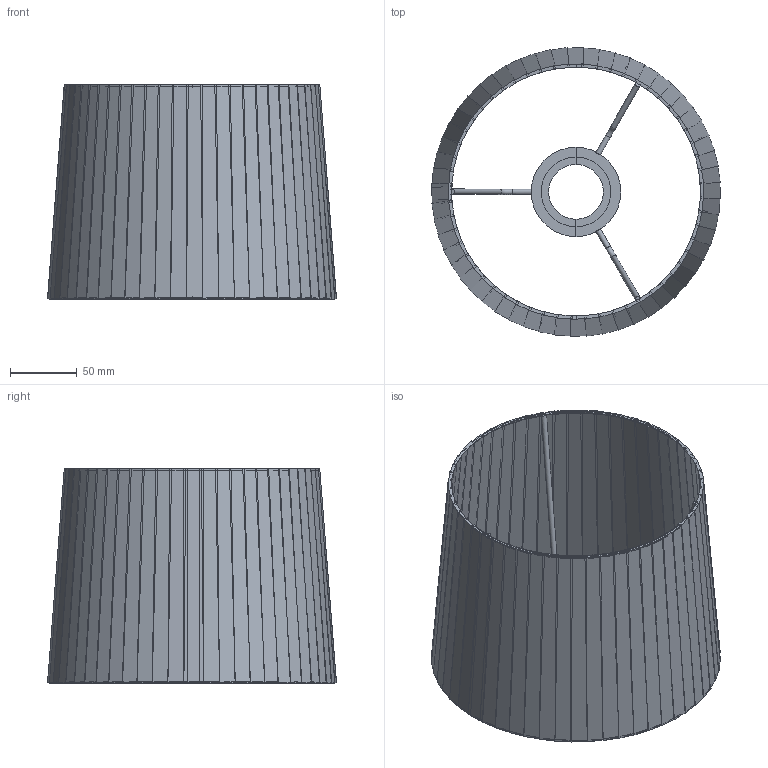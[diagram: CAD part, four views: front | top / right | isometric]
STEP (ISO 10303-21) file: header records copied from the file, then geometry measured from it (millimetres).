
FILE_DESCRIPTION(/* description */ (''),/* implementation_level */ '2;1');
FILE_NAME(/* name */ 'C:\Users\francosartori\Documents\Modelos\01_Digitalizados\0_Pantallas\03_Publicación\2P061X\2P0616.stp',/* time_stamp */ '2020-05-28T13:30:25+02:00',/* author */ ('FrancoSartori'),/* organization */ (''),/* preprocessor_version */ 'ST-DEVELOPER v18.1',/* originating_system */ 'AutoCAD Mechanical',/* authorisation */ '');
FILE_SCHEMA (('AUTOMOTIVE_DESIGN { 1 0 10303 214 3 1 1 }'));
Length unit declared in the file: millimetre
Products named in the file (2): Product; 2P0615_SHADE - Shade-447397-_3D_
Assembly tree (1 placements, depth 2):
  Product
    2P0615_SHADE - Shade-447397-_3D_
Bounding box: 215.98 x 215.92 x 160.22 mm (x, y, z)
Volume: 275742.7 mm3; surface area: 286715.8 mm2
Topology: 64 solids, 64 shells, 504 faces, 1116 edges, 732 vertices
Faces by surface type: plane 470, cylinder 20, torus 14
Entity records: 16546 total; most frequent: CARTESIAN_POINT 5379, ORIENTED_EDGE 2232, DIRECTION 2124, EDGE_CURVE 1116, LINE 1054, VECTOR 1054, VERTEX_POINT 732, AXIS2_PLACEMENT_3D 535
